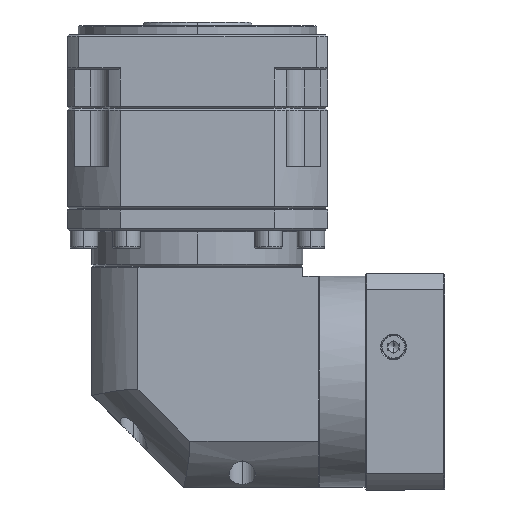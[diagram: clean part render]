
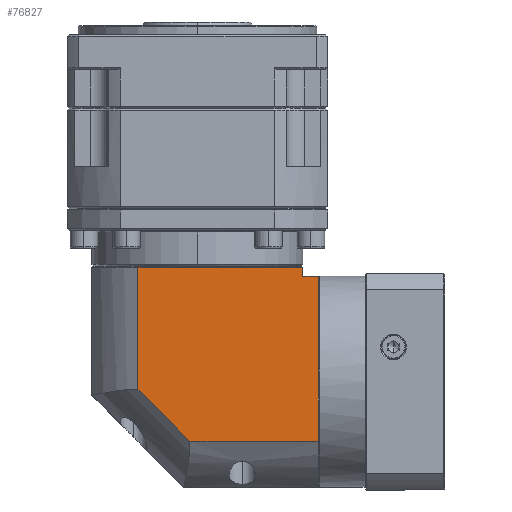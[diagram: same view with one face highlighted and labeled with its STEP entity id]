
A CAD part, left-side view. The second image highlights one B-rep face of the part: STEP entity #76827.
In plain terms, the highlighted planar face has unit normal (-1, 0, 0).
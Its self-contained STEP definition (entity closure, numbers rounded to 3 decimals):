
#7901 = EDGE_CURVE ( 'NONE', #57532, #12465, #23712, .T. ) ;
#8036 = VECTOR ( 'NONE', #32577, 1000. ) ;
#12465 = VERTEX_POINT ( 'NONE', #29358 ) ;
#16594 = DIRECTION ( 'NONE',  ( 0., 0., -1. ) ) ;
#17708 = DIRECTION ( 'NONE',  ( 0., 0., 1. ) ) ;
#21253 = FACE_OUTER_BOUND ( 'NONE', #48985, .T. ) ;
#22750 = CARTESIAN_POINT ( 'NONE',  ( -251.848, -12.854, -35.483 ) ) ;
#23712 = LINE ( 'NONE', #130801, #164396 ) ;
#26864 = VECTOR ( 'NONE', #165574, 1000. ) ;
#29358 = CARTESIAN_POINT ( 'NONE',  ( -251.848, -74.416, 54.416 ) ) ;
#32577 = DIRECTION ( 'NONE',  ( 0., -1., 0. ) ) ;
#36932 = VECTOR ( 'NONE', #17708, 1000. ) ;
#38848 = ORIENTED_EDGE ( 'NONE', *, *, #61559, .T. ) ;
#40401 = CARTESIAN_POINT ( 'NONE',  ( -251.848, 15.484, 59.416 ) ) ;
#46504 = ORIENTED_EDGE ( 'NONE', *, *, #68671, .F. ) ;
#46987 = DIRECTION ( 'NONE',  ( 0., 1., 0. ) ) ;
#48456 = LINE ( 'NONE', #72964, #8036 ) ;
#48985 = EDGE_LOOP ( 'NONE', ( #137044, #46504, #101163, #121661, #73971, #38848, #130497 ) ) ;
#51770 = LINE ( 'NONE', #167263, #36932 ) ;
#57039 = CARTESIAN_POINT ( 'NONE',  ( -251.848, 15.484, 65.916 ) ) ;
#57532 = VERTEX_POINT ( 'NONE', #85757 ) ;
#60792 = EDGE_CURVE ( 'NONE', #80965, #90811, #82131, .T. ) ;
#61559 = EDGE_CURVE ( 'NONE', #12465, #93341, #51770, .T. ) ;
#62165 = VERTEX_POINT ( 'NONE', #22750 ) ;
#64852 = CARTESIAN_POINT ( 'NONE',  ( -251.848, -74.416, 59.416 ) ) ;
#66855 = VECTOR ( 'NONE', #16594, 1000. ) ;
#68671 = EDGE_CURVE ( 'NONE', #62165, #80965, #152465, .T. ) ;
#72964 = CARTESIAN_POINT ( 'NONE',  ( -251.848, 40.584, 59.416 ) ) ;
#73971 = ORIENTED_EDGE ( 'NONE', *, *, #7901, .T. ) ;
#76827 = ADVANCED_FACE ( 'NONE', ( #21253 ), #113786, .F. ) ;
#80965 = VERTEX_POINT ( 'NONE', #103439 ) ;
#82131 = LINE ( 'NONE', #57039, #26864 ) ;
#85757 = CARTESIAN_POINT ( 'NONE',  ( -251.848, -82.816, 54.416 ) ) ;
#89947 = DIRECTION ( 'NONE',  ( 0., 0.707, 0.707 ) ) ;
#90811 = VERTEX_POINT ( 'NONE', #40401 ) ;
#93341 = VERTEX_POINT ( 'NONE', #64852 ) ;
#101163 = ORIENTED_EDGE ( 'NONE', *, *, #115497, .F. ) ;
#101226 = CARTESIAN_POINT ( 'NONE',  ( -251.848, 40.584, 65.916 ) ) ;
#102041 = EDGE_CURVE ( 'NONE', #90811, #93341, #48456, .T. ) ;
#103189 = CARTESIAN_POINT ( 'NONE',  ( -251.848, -12.854, -35.483 ) ) ;
#103439 = CARTESIAN_POINT ( 'NONE',  ( -251.848, 15.484, -7.145 ) ) ;
#109610 = CARTESIAN_POINT ( 'NONE',  ( -251.848, -82.816, 65.916 ) ) ;
#113786 = PLANE ( 'NONE',  #117643 ) ;
#114957 = DIRECTION ( 'NONE',  ( 1., 0., 0. ) ) ;
#115497 = EDGE_CURVE ( 'NONE', #120265, #62165, #133033, .T. ) ;
#116165 = VECTOR ( 'NONE', #89947, 1000. ) ;
#117643 = AXIS2_PLACEMENT_3D ( 'NONE', #101226, #114957, #46987 ) ;
#120265 = VERTEX_POINT ( 'NONE', #151129 ) ;
#121661 = ORIENTED_EDGE ( 'NONE', *, *, #173338, .F. ) ;
#130497 = ORIENTED_EDGE ( 'NONE', *, *, #102041, .F. ) ;
#130801 = CARTESIAN_POINT ( 'NONE',  ( -251.848, -74.416, 54.416 ) ) ;
#133033 = LINE ( 'NONE', #162751, #137326 ) ;
#137044 = ORIENTED_EDGE ( 'NONE', *, *, #60792, .F. ) ;
#137326 = VECTOR ( 'NONE', #176452, 1000. ) ;
#139525 = LINE ( 'NONE', #109610, #66855 ) ;
#151129 = CARTESIAN_POINT ( 'NONE',  ( -251.848, -82.816, -35.483 ) ) ;
#152465 = LINE ( 'NONE', #103189, #116165 ) ;
#162751 = CARTESIAN_POINT ( 'NONE',  ( -251.848, 40.584, -35.483 ) ) ;
#164396 = VECTOR ( 'NONE', #171255, 1000. ) ;
#165574 = DIRECTION ( 'NONE',  ( 0., 0., 1. ) ) ;
#167263 = CARTESIAN_POINT ( 'NONE',  ( -251.848, -74.416, -60.584 ) ) ;
#171255 = DIRECTION ( 'NONE',  ( 0., 1., 0. ) ) ;
#173338 = EDGE_CURVE ( 'NONE', #57532, #120265, #139525, .T. ) ;
#176452 = DIRECTION ( 'NONE',  ( 0., 1., 0. ) ) ;
